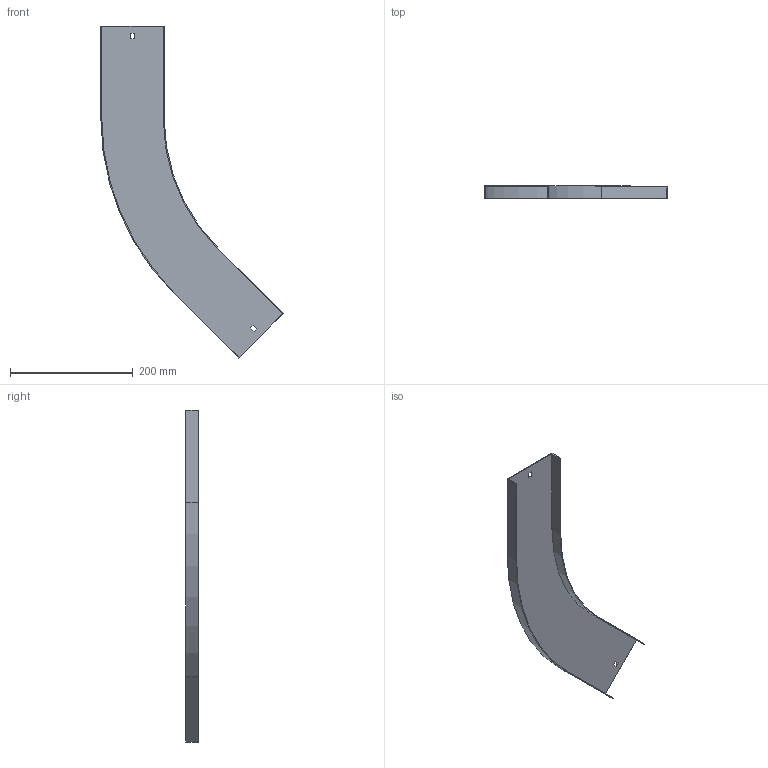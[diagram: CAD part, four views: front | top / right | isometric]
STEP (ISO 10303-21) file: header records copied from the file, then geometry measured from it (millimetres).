
FILE_DESCRIPTION (( 'STEP AP214' ), '1' );
FILE_NAME ('A2_11N3R100.step', '2025-02-21T10:50:23', ( '' ), ( '' ), 'SwSTEP 2.0', 'SolidWorks 2023', '' );
FILE_SCHEMA (( 'AUTOMOTIVE_DESIGN' ));
Length unit declared in the file: millimetre
Products named in the file (1): A2_11N3R100
Bounding box: 296.49 x 20 x 539.97 mm (x, y, z)
Volume: 120551.3 mm3; surface area: 162972.7 mm2
Topology: 1 solids, 1 shells, 26 faces, 72 edges, 48 vertices
Faces by surface type: plane 22, cylinder 4
Entity records: 855 total; most frequent: CARTESIAN_POINT 147, ORIENTED_EDGE 144, DIRECTION 134, EDGE_CURVE 72, VECTOR 64, LINE 64, VERTEX_POINT 48, AXIS2_PLACEMENT_3D 35
